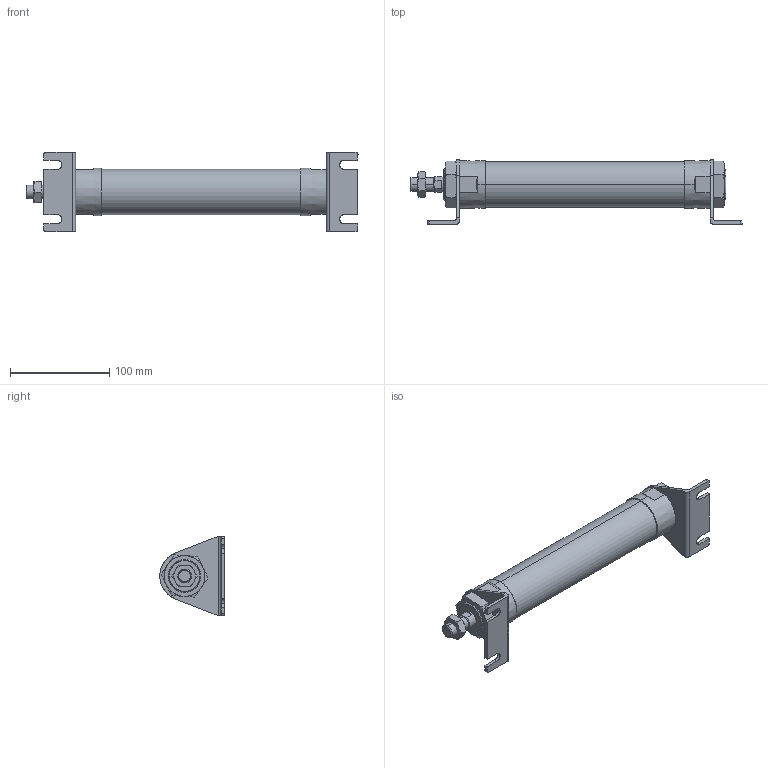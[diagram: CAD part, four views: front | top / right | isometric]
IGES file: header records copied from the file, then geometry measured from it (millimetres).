
Start section: SolidWorks IGES file using analytic representation for surfaces
Global section: file name: C:\Users\Toshiba\Desktop\J#2-40-150-L.IGS; native system: SolidWorks 2014; preprocessor: SolidWorks 2014; author: Toshiba; date: 160310.090720; units: millimetre
Bounding box: 335.2 x 65 x 80 mm (x, y, z)
Surface area: 78263.4 mm2 (no closed solid volume)
Topology: 0 solids, 0 shells, 170 faces, 3118 edges, 3114 vertices
Faces by surface type: bspline 107, revolution 63
